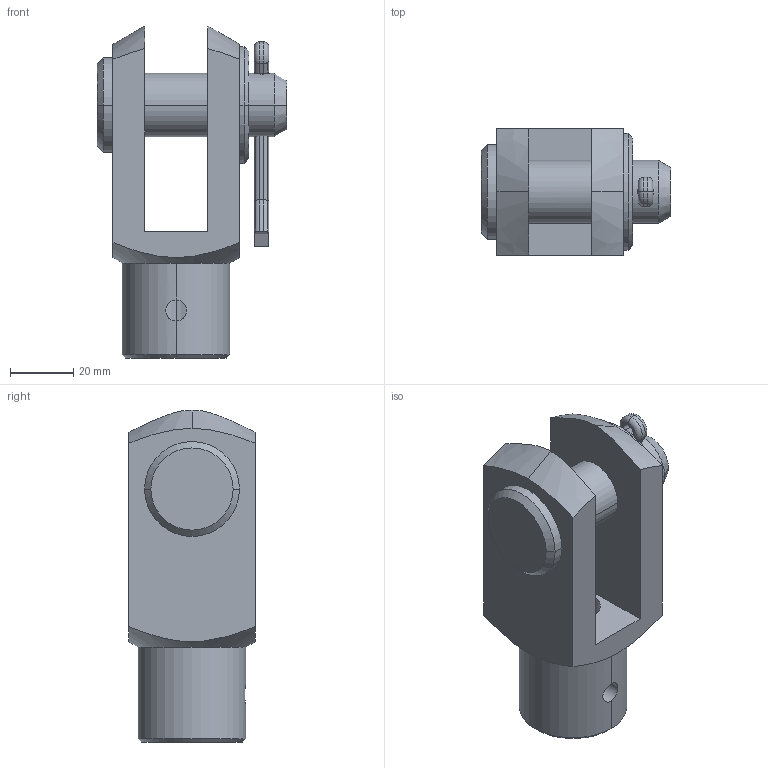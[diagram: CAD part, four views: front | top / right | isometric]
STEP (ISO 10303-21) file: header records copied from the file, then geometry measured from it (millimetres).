
FILE_DESCRIPTION (( 'STEP AP203' ), '1' );
FILE_NAME ('MJ3-GS.STEP', '2024-01-15T15:17:50', ( '' ), ( '' ), 'SwSTEP 2.0', 'SolidWorks 2022', '' );
FILE_SCHEMA (( 'CONFIG_CONTROL_DESIGN' ));
Length unit declared in the file: millimetre
Products named in the file (1): MJ3-GS
Bounding box: 60 x 40 x 105 mm (x, y, z)
Volume: 97004.2 mm3; surface area: 29773.8 mm2
Topology: 4 solids, 4 shells, 95 faces, 234 edges, 146 vertices
Faces by surface type: cylinder 48, plane 29, cone 14, torus 4
Entity records: 3176 total; most frequent: CARTESIAN_POINT 901, ORIENTED_EDGE 468, DIRECTION 452, EDGE_CURVE 234, AXIS2_PLACEMENT_3D 170, VERTEX_POINT 146, LINE 112, VECTOR 112
